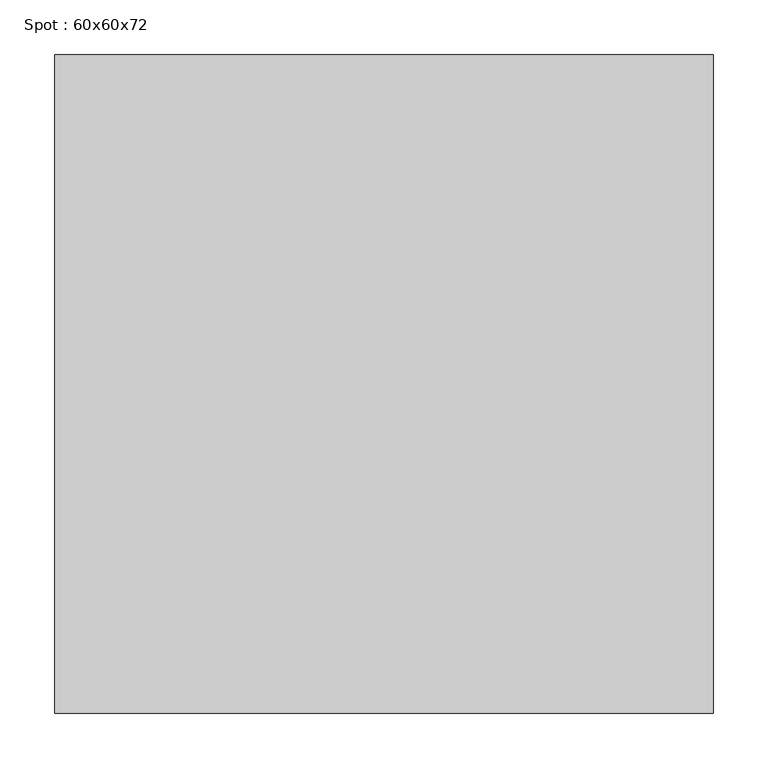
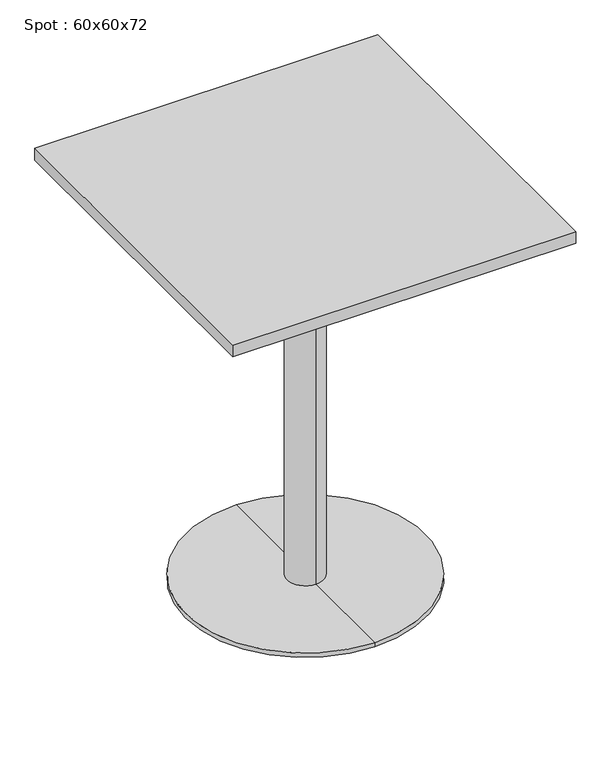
"""IFC4 building model written with IfcOpenShell, lengths in millimetres: furniture geometry, Spot : 60x60x72."""

from ifc_helpers import new_model, si_unit, frame, origin, place, context, project, spatial, polyline, circle_curve, outline, extrude, source, transform, mapped, element, save
from ifc_brep_helpers import plane_surface, cylinder_surface, revolved_surface, advanced_brep


def spot_60x60x72_564218d8(model_context):
    return source(origin(), model_context, "Body", "SolidModel", [
        extrude(outline(polyline([(300.0, 300.0), (300.0, -300.0), (-300.0, -300.0), (-300.0, 300.0), (300.0, 300.0)])), frame((0.0, 0.0, 698.0), z_axis=(0.0, 0.0, 1.0), x_axis=(1.0, 0.0, 0.0)), (0.0, 0.0, 1.0), 22.0),
        advanced_brep(
        [(0.0, 32.0, 10.0), (0.0, -32.0, 10.0), (0.0, -32.0, 667.406916), (0.0, 32.0, 667.406916), (0.0, 210.0, 10.0), (0.0, -210.0, 10.0), (0.0, 210.0, 2.0), (0.0, -210.0, 2.0), (0.0, 0.0, 2.0), (0.0, 150.0, 698.0), (0.0, -150.0, 698.0), (0.0, 0.0, 698.0), (0.0, 150.0, 686.7213673), (0.0, -150.0, 686.7213673)],
        [
            (0, 1, circle_curve(frame((0.0, 0.0, 10.0), z_axis=(0.0, 0.0, 1.0), x_axis=(0.0, -1.0, 0.0)), 32.0)),
            (1, 2),
            (2, 3, circle_curve(frame((0.0, 0.0, 667.406916), z_axis=(0.0, 0.0, -1.0), x_axis=(0.0, -1.0, 0.0)), 32.0)),
            (3, 0),
            (1, 0, circle_curve(frame((0.0, 0.0, 10.0), z_axis=(0.0, 0.0, 1.0), x_axis=(0.0, -1.0, 0.0)), 32.0)),
            (3, 2, circle_curve(frame((0.0, 0.0, 667.406916), z_axis=(0.0, 0.0, -1.0), x_axis=(0.0, -1.0, 0.0)), 32.0)),
            (4, 5, circle_curve(frame((0.0, 0.0, 10.0), z_axis=(0.0, 0.0, 1.0), x_axis=(0.0, -1.0, 0.0)), 210.0)),
            (5, 1),
            (0, 4),
            (5, 4, circle_curve(frame((0.0, 0.0, 10.0), z_axis=(0.0, 0.0, 1.0), x_axis=(0.0, -1.0, 0.0)), 210.0)),
            (6, 7, circle_curve(frame((0.0, 0.0, 2.0), z_axis=(0.0, 0.0, 1.0), x_axis=(0.0, -1.0, 0.0)), 210.0)),
            (7, 5),
            (4, 6),
            (7, 6, circle_curve(frame((0.0, 0.0, 2.0), z_axis=(0.0, 0.0, 1.0), x_axis=(0.0, -1.0, 0.0)), 210.0)),
            (8, 7),
            (6, 8),
            (9, 10, circle_curve(frame((0.0, 0.0, 698.0), z_axis=(0.0, 0.0, 1.0), x_axis=(0.0, -1.0, 0.0)), 150.0)),
            (10, 11),
            (11, 9),
            (10, 9, circle_curve(frame((0.0, 0.0, 698.0), z_axis=(0.0, 0.0, 1.0), x_axis=(0.0, -1.0, 0.0)), 150.0)),
            (12, 13, circle_curve(frame((0.0, 0.0, 686.7213673), z_axis=(0.0, 0.0, 1.0), x_axis=(0.0, -1.0, 0.0)), 150.0)),
            (13, 10),
            (9, 12),
            (13, 12, circle_curve(frame((0.0, 0.0, 686.7213673), z_axis=(0.0, 0.0, 1.0), x_axis=(0.0, -1.0, 0.0)), 150.0)),
            (2, 13),
            (12, 3),
        ],
        [
            cylinder_surface(frame((0.0, 0.0, 1060.0), z_axis=(0.0, 0.0, -1.0), x_axis=(0.0, -1.0, 0.0)), 32.0),
            plane_surface(frame((0.0, 0.0, 10.0), z_axis=(0.0, 0.0, 1.0), x_axis=(0.0, -1.0, 0.0))),
            cylinder_surface(frame((0.0, 0.0, 1060.0), z_axis=(0.0, 0.0, -1.0), x_axis=(0.0, -1.0, 0.0)), 210.0),
            plane_surface(frame((0.0, 0.0, 2.0), z_axis=(0.0, 0.0, -1.0), x_axis=(0.0, -1.0, 0.0))),
            plane_surface(frame((0.0, 0.0, 698.0), z_axis=(0.0, 0.0, 1.0), x_axis=(0.0, -1.0, 0.0))),
            cylinder_surface(frame((0.0, 0.0, 1060.0), z_axis=(0.0, 0.0, -1.0), x_axis=(0.0, -1.0, 0.0)), 150.0),
            revolved_surface(polyline([(0.0, -150.0, 686.7213673), (0.0, -32.0, 667.406916)]), (0.0, 0.0, 1060.0), (0.0, 0.0, -1.0)),
        ],
        [
            (0, [[1, 2, 3, 4]]),
            (0, [[5, -4, 6, -2]]),
            (1, [[7, 8, -1, 9]]),
            (1, [[10, -9, -5, -8]]),
            (2, [[11, 12, -7, 13]]),
            (2, [[14, -13, -10, -12]]),
            (3, [[15, -11, 16]]),
            (3, [[-16, -14, -15]]),
            (4, [[17, 18, 19]]),
            (4, [[20, -19, -18]]),
            (5, [[21, 22, -17, 23]]),
            (5, [[24, -23, -20, -22]]),
            (6, [[-3, 25, -21, 26]]),
            (6, [[-6, -26, -24, -25]]),
        ],
    ),
    ])


if __name__ == "__main__":
    model = new_model("IFC4")
    model_context = context("Model", 3, world=origin())
    ifc_project = project(units=[si_unit("LENGTHUNIT", "METRE", prefix="MILLI")], contexts=[model_context])
    site = spatial("IfcSite", under=ifc_project)
    building = spatial("IfcBuilding", under=site)
    placement = place(None, origin())
    spot_60x60x72_shape = spot_60x60x72_564218d8(model_context)
    element("IfcFurniture", 1, ObjectType="Spot : 60x60x72", at=placement, inside=building, context=model_context, shape_type="MappedRepresentation", body=[
        mapped(spot_60x60x72_shape, transform((0.0, 0.0, 0.0), x_axis=(1.0, 0.0, 0.0), y_axis=(0.0, 1.0, 0.0), z_axis=(0.0, 0.0, 1.0))),
    ])
    save(model, "model.ifc")
